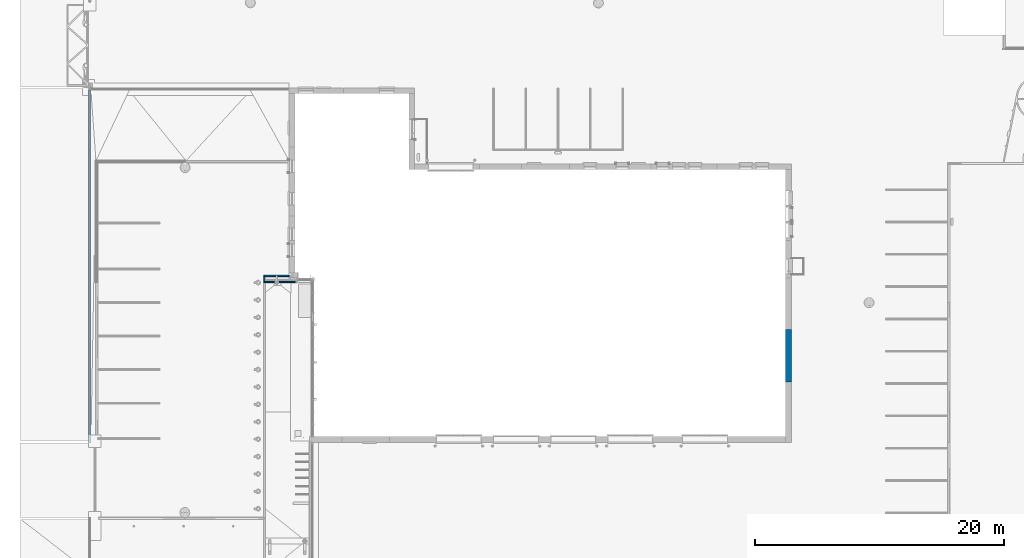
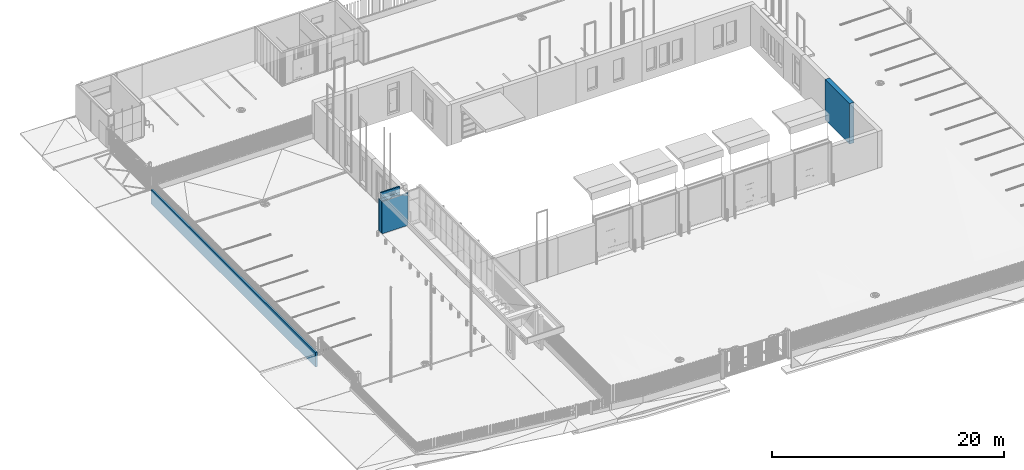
# One storey, part 17 of 77: 6 walls, 8 openings.
"""IFC2X3 building model written with IfcOpenShell, lengths in millimetres."""

from ifc_helpers import new_model, entity, si_unit, converted_unit, derived_unit, direction, frame, frame_2d, origin, origin_2d_with_axis, place, context, subcontext, project, spatial, polyline, rectangle, outline, extrude, faceted_brep, material, layer, layer_set, layer_usage, type_object, element, save


model = new_model("IFC2X3")

# Units and contexts
model_context = context("Model", 3, precision=0.01, world=origin(), true_north=direction((6.12303176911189e-17, 1.0)))
body_context = subcontext(model_context, "Body", "Model", "MODEL_VIEW")
ifc_project = project(units=[si_unit("LENGTHUNIT", "METRE", prefix="MILLI"), si_unit("AREAUNIT", "SQUARE_METRE"), si_unit("VOLUMEUNIT", "CUBIC_METRE"), converted_unit("PLANEANGLEUNIT", "DEGREE", entity("IfcRatioMeasure", 0.0174532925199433), si_unit("PLANEANGLEUNIT", "RADIAN"), dimensions=[0, 0, 0, 0, 0, 0, 0]), si_unit("MASSUNIT", "GRAM", prefix="KILO"), derived_unit("MASSDENSITYUNIT", [(si_unit("MASSUNIT", "GRAM", prefix="KILO"), 1), (si_unit("LENGTHUNIT", "METRE"), -3)]), si_unit("TIMEUNIT", "SECOND"), si_unit("FREQUENCYUNIT", "HERTZ"), si_unit("THERMODYNAMICTEMPERATUREUNIT", "DEGREE_CELSIUS"), derived_unit("THERMALTRANSMITTANCEUNIT", [(si_unit("MASSUNIT", "GRAM", prefix="KILO"), 1), (si_unit("THERMODYNAMICTEMPERATUREUNIT", "KELVIN"), -1), (si_unit("TIMEUNIT", "SECOND"), -3)]), derived_unit("VOLUMETRICFLOWRATEUNIT", [(si_unit("LENGTHUNIT", "METRE"), 3), (si_unit("TIMEUNIT", "SECOND"), -1)]), si_unit("ELECTRICCURRENTUNIT", "AMPERE"), si_unit("ELECTRICVOLTAGEUNIT", "VOLT"), si_unit("POWERUNIT", "WATT"), si_unit("FORCEUNIT", "NEWTON", prefix="KILO"), si_unit("ILLUMINANCEUNIT", "LUX"), si_unit("LUMINOUSFLUXUNIT", "LUMEN"), si_unit("LUMINOUSINTENSITYUNIT", "CANDELA"), derived_unit("USERDEFINED", [(si_unit("MASSUNIT", "GRAM", prefix="KILO"), -1), (si_unit("LENGTHUNIT", "METRE"), -2), (si_unit("TIMEUNIT", "SECOND"), 3), (si_unit("LUMINOUSFLUXUNIT", "LUMEN"), 1)]), derived_unit("LINEARVELOCITYUNIT", [(si_unit("LENGTHUNIT", "METRE"), 1), (si_unit("TIMEUNIT", "SECOND"), -1)]), si_unit("PRESSUREUNIT", "PASCAL"), derived_unit("USERDEFINED", [(si_unit("LENGTHUNIT", "METRE"), -2), (si_unit("MASSUNIT", "GRAM", prefix="KILO"), 1), (si_unit("TIMEUNIT", "SECOND"), -2)])], contexts=[model_context])

# Site, building, storey
site_placement = place(None, origin())
site = spatial("IfcSite", under=ifc_project, at=site_placement, Name="Default", CompositionType="ELEMENT")
building_placement = place(site_placement, origin())
building = spatial("IfcBuilding", under=site, at=building_placement, CompositionType="ELEMENT")
storey_placement = place(building_placement, origin())
storey = spatial("IfcBuildingStorey", under=building, at=storey_placement, Name="1. KORRUS", CompositionType="ELEMENT", Elevation=0.0)

# Wall, openings
ifc_material_1 = material(Name="Must-al-komposiitplaat")
ifc_layer_1 = layer(ifc_material_1, 5.0)
ifc_material_2 = material(Name="Metal Stud Layer")
ifc_layer_2 = layer(ifc_material_2, 95.0)
ifc_layer_set_1 = layer_set([ifc_layer_1, ifc_layer_2], Name="Basic Wall:Alumiinium-komposiitplaat roovidel")
ifc_layer_usage_1 = layer_usage(ifc_layer_set_1, "AXIS2", "POSITIVE", -50.0)
wall_type_1 = type_object("IfcWallType", Name="Basic Wall:Alumiinium-komposiitplaat roovidel", PredefinedType="STANDARD", material=ifc_layer_set_1)
wall_1_placement = place(storey_placement, frame((-450.0, 12950.0, 0.0), z_axis=(0.0, 0.0, 1.0), x_axis=(-1.0, 0.0, 0.0)))
wall_1 = element("IfcWallStandardCase", 1, at=wall_1_placement, inside=storey, type_object=wall_type_1, material=ifc_layer_usage_1, Name="Basic Wall:Alumiinium-komposiitplaat roovidel", ObjectType="Basic Wall:Alumiinium-komposiitplaat roovidel", context=body_context, shape_type="SweptSolid", body=[
    extrude(rectangle(XDim=2050.074537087, YDim=99.9999999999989, at=frame_2d((1025.0372685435, 1.77635683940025e-14), x_axis=(-1.0, 0.0))), origin(), (0.0, 0.0, 1.0), 3400.0),
])
opening_1_placement = place(wall_1_placement, origin())
element("IfcOpeningElement", 2, at=opening_1_placement, cuts=wall_1, Name="Basic Wall:Alumiinium-komposiitplaat roovidel", ObjectType="Recess", context=body_context, shape_type="SweptSolid", body=[
    extrude(rectangle(XDim=3400.0, YDim=4.99999999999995, at=origin_2d_with_axis()), frame((1897.574537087, -50.0, 1700.0), z_axis=(0.0, 1.0, 0.0), x_axis=(0.0, 0.0, -1.0)), (0.0, 0.0, 1.0), 5.00000000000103),
])
opening_2_placement = place(wall_1_placement, origin())
element("IfcOpeningElement", 3, at=opening_2_placement, cuts=wall_1, Name="Basic Wall:Alumiinium-komposiitplaat roovidel", ObjectType="Recess", context=body_context, shape_type="SweptSolid", body=[
    extrude(rectangle(XDim=3400.0, YDim=4.99999999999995, at=origin_2d_with_axis()), frame((947.574537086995, -50.0, 1700.0), z_axis=(0.0, 1.0, 0.0), x_axis=(0.0, 0.0, -1.0)), (0.0, 0.0, 1.0), 5.00000000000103),
])

ifc_layer_usage_2 = layer_usage(ifc_layer_set_1, "AXIS2", "NEGATIVE", 50.0)
wall_2_placement = place(storey_placement, frame((90.0, 12450.0003485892, 0.0), z_axis=(0.0, 0.0, 1.0), x_axis=(-1.0, 0.0, 0.0)))
wall_2 = element("IfcWallStandardCase", 4, at=wall_2_placement, inside=storey, type_object=wall_type_1, material=ifc_layer_usage_2, Name="Basic Wall:Alumiinium-komposiitplaat roovidel", ObjectType="Basic Wall:Alumiinium-komposiitplaat roovidel", context=body_context, shape_type="SweptSolid", body=[
    extrude(rectangle(XDim=2590.07453708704, YDim=99.9999999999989, at=frame_2d((1295.03726854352, -2.27373675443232e-13), x_axis=(-1.0, 0.0))), origin(), (0.0, 0.0, 1.0), 3400.0),
])
opening_3_placement = place(wall_2_placement, origin())
element("IfcOpeningElement", 5, at=opening_3_placement, cuts=wall_2, Name="Basic Wall:Alumiinium-komposiitplaat roovidel", ObjectType="Recess", context=body_context, shape_type="SweptSolid", body=[
    extrude(rectangle(XDim=3400.0, YDim=4.99999999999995, at=origin_2d_with_axis()), frame((1242.5, 45.0, 1700.0), z_axis=(0.0, 1.0, 0.0), x_axis=(0.0, 0.0, 1.0)), (0.0, 0.0, 1.0), 5.00000000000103),
])
opening_4_placement = place(wall_2_placement, origin())
element("IfcOpeningElement", 6, at=opening_4_placement, cuts=wall_2, Name="Basic Wall:Alumiinium-komposiitplaat roovidel", ObjectType="Recess", context=body_context, shape_type="SweptSolid", body=[
    extrude(rectangle(XDim=3400.0, YDim=4.99999999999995, at=origin_2d_with_axis()), frame((2502.47901274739, 45.0, 1700.0), z_axis=(0.0, 1.0, 0.0), x_axis=(0.0, 0.0, 1.0)), (0.0, 0.0, 1.0), 5.00000000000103),
])
opening_5_placement = place(wall_2_placement, origin())
element("IfcOpeningElement", 7, at=opening_5_placement, cuts=wall_2, Name="Basic Wall:Alumiinium-komposiitplaat roovidel", ObjectType="Recess", context=body_context, shape_type="SweptSolid", body=[
    extrude(rectangle(XDim=3400.0, YDim=5.0, at=frame_2d((0.0, 8.43769498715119e-15), x_axis=(1.0, 0.0))), frame((7.50000000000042, 45.0, 1700.0), z_axis=(0.0, 1.0, 0.0), x_axis=(0.0, 0.0, 1.0)), (0.0, 0.0, 1.0), 5.00000000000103),
])

# Wall
ifc_layer_usage_3 = layer_usage(ifc_layer_set_1, "AXIS2", "NEGATIVE", 50.0)
wall_3_placement = place(storey_placement, frame((-2450.07453708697, 12500.0003485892, 0.0), z_axis=(0.0, 0.0, 1.0), x_axis=(0.0, 1.0, 0.0)))
element("IfcWallStandardCase", 8, at=wall_3_placement, inside=storey, type_object=wall_type_1, material=ifc_layer_usage_3, Name="Basic Wall:Alumiinium-komposiitplaat roovidel", ObjectType="Basic Wall:Alumiinium-komposiitplaat roovidel", context=body_context, shape_type="SweptSolid", body=[
    extrude(rectangle(XDim=399.999651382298, YDim=100.0, at=frame_2d((199.999825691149, 1.3855583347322e-13), x_axis=(-1.0, 0.0))), origin(), (0.0, 0.0, 1.0), 3400.0),
])

# Wall, opening
ifc_layer_3 = layer(ifc_material_1, 5.0)
ifc_material_3 = material(Name="Õhkvahe- hor roovid")
ifc_layer_4 = layer(ifc_material_3, 20.0)
ifc_material_4 = material(Name="Õhkvahe- vert roovid")
ifc_layer_5 = layer(ifc_material_4, 100.0)
ifc_material_5 = material(Name="Vineer")
ifc_layer_6 = layer(ifc_material_5, 15.0)
ifc_layer_set_2 = layer_set([ifc_layer_3, ifc_layer_4, ifc_layer_5, ifc_layer_6], Name="Basic Wall:varikatuse serv")
ifc_layer_usage_4 = layer_usage(ifc_layer_set_2, "AXIS2", "POSITIVE", -70.0)
wall_type_2 = type_object("IfcWallType", Name="Basic Wall:varikatuse serv", PredefinedType="STANDARD", material=ifc_layer_set_2)
wall_4_placement = place(storey_placement, frame((-350.0, 12930.0006972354, 3400.0), z_axis=(0.0, 0.0, 1.0), x_axis=(-1.0, 0.0, 0.0)))
wall_4 = element("IfcWallStandardCase", 9, at=wall_4_placement, inside=storey, type_object=wall_type_2, material=ifc_layer_usage_4, Name="Basic Wall:varikatuse serv", ObjectType="Basic Wall:varikatuse serv", context=body_context, shape_type="SweptSolid", body=[
    extrude(outline(polyline([(100.0, 70.0), (100.0, -70.0), (1995.0, -70.0), (1995.0, -65.0), (2000.0, -65.0), (2000.0, -70.0), (2010.0, -70.0), (2010.0, 70.0), (100.0, 70.0)])), origin(), (0.0, 0.0, 1.0), 600.0),
])
opening_6_placement = place(wall_4_placement, origin())
element("IfcOpeningElement", 10, at=opening_6_placement, cuts=wall_4, Name="Basic Wall:varikatuse serv", ObjectType="Recess", context=body_context, shape_type="SweptSolid", body=[
    extrude(rectangle(XDim=600.0, YDim=4.99999999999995, at=origin_2d_with_axis()), frame((1997.50000000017, -70.0, 300.0), z_axis=(0.0, 1.0, 0.0), x_axis=(0.0, 0.0, -1.0)), (0.0, 0.0, 1.0), 5.00000000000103),
])

# Wall, openings
ifc_material_6 = material(Name="RECKLI 1 173 THUR by Polantis 2016-toon3")
ifc_layer_7 = layer(ifc_material_6, 100.0)
ifc_material_7 = material(Name="Soojusisolatsioon EPS")
ifc_layer_8 = layer(ifc_material_7, 200.0)
ifc_material_8 = material(Name="r/b")
ifc_layer_9 = layer(ifc_material_8, 150.0)
ifc_layer_set_3 = layer_set([ifc_layer_7, ifc_layer_8, ifc_layer_9], Name="Basic Wall:VS-1_toon-b")
ifc_layer_usage_5 = layer_usage(ifc_layer_set_3, "AXIS2", "NEGATIVE", 225.0)
wall_type_3 = type_object("IfcWallType", Name="Basic Wall:VS-1_toon-b", PredefinedType="STANDARD", material=ifc_layer_set_3)
wall_5_placement = place(storey_placement, frame((39725.0, 8643.33, -400.0), z_axis=(0.0, 0.0, 1.0), x_axis=(0.0, -1.0, 0.0)))
wall_5 = element("IfcWallStandardCase", 11, at=wall_5_placement, inside=storey, type_object=wall_type_3, material=ifc_layer_usage_5, Name="Basic Wall:VS-1_toon-b", ObjectType="Basic Wall:VS-1_toon-b", context=body_context, shape_type="SweptSolid", body=[
    extrude(rectangle(XDim=4228.33000000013, YDim=450.000000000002, at=frame_2d((2114.16500000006, 3.45323769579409e-12), x_axis=(-1.0, 0.0))), origin(), (0.0, 0.0, 1.0), 4265.0),
])
opening_7_placement = place(wall_5_placement, origin())
element("IfcOpeningElement", 12, at=opening_7_placement, cuts=wall_5, Name="Basic Wall:VS-1_toon-b", ObjectType="Recess", context=body_context, shape_type="SweptSolid", body=[
    extrude(rectangle(XDim=4265.0, YDim=16.0000000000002, at=frame_2d((0.0, -2.70450328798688e-13), x_axis=(1.0, 0.0))), frame((4214.66, 205.0, 2132.5), z_axis=(0.0, 1.0, 0.0), x_axis=(0.0, 0.0, 1.0)), (0.0, 0.0, 1.0), 20.0000000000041),
    extrude(rectangle(XDim=4835.0, YDim=16.0000000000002, at=frame_2d((0.0, -2.70450328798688e-13), x_axis=(1.0, 0.0))), frame((4214.66, 205.0, 6682.5), z_axis=(0.0, 1.0, 0.0), x_axis=(0.0, 0.0, 1.0)), (0.0, 0.0, 1.0), 20.0000000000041),
])
opening_8_placement = place(wall_5_placement, origin())
element("IfcOpeningElement", 13, at=opening_8_placement, cuts=wall_5, Name="Basic Wall:VS-1_toon-b", ObjectType="Opening", context=body_context, shape_type="Brep", body=[
    faceted_brep([(-19386.67, -40155.0, 400.0), (-19386.67, -40155.0, 0.0), (-19406.67, -40175.0, 0.0), (-19406.67, -40175.0, 400.0), (-14646.67, -40155.0, 400.0), (-14646.67, -40175.0, 400.0), (-14646.67, -40175.0, 0.0), (-14646.67, -40155.0, 0.0)], [[[0, 1, 2, 3]], [[4, 5, 6, 7]], [[1, 0, 4, 7]], [[2, 1, 7, 6]], [[3, 2, 6, 5]], [[0, 3, 5, 4]]]),
    faceted_brep([(-19386.67, -40155.0, 400.0), (-19406.67, -40175.0, 400.0), (-19406.67, -40175.0, 0.0), (-19386.67, -40155.0, 0.0), (-19386.67, -35815.0, 400.0), (-19386.67, -35815.0, 0.0), (-19406.67, -35815.0, 0.0), (-19406.67, -35815.0, 400.0)], [[[0, 1, 2, 3]], [[4, 5, 6, 7]], [[1, 0, 4, 7]], [[2, 1, 7, 6]], [[3, 2, 6, 5]], [[0, 3, 5, 4]]]),
    faceted_brep([(-19386.67, -30095.0, 400.0), (-19406.6699999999, -30075.0, 400.0), (-19406.6699999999, -30075.0, 0.0), (-19386.67, -30095.0, 0.0), (-13286.7217807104, -30095.0, 400.0), (-13286.7217807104, -30095.0, 0.0), (-13306.7217807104, -30075.0, 0.0), (-13306.7217807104, -30075.0, 400.0)], [[[0, 1, 2, 3]], [[4, 5, 6, 7]], [[1, 0, 4, 7]], [[2, 1, 7, 6]], [[3, 2, 6, 5]], [[0, 3, 5, 4]]]),
    faceted_brep([(-13286.7217807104, -25375.0, 400.0), (-13306.7217807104, -25375.0, 400.0), (-13306.7217807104, -25375.0, 0.0), (-13286.7217807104, -25375.0, 0.0), (-13286.7217807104, -24845.0, 400.0), (-13286.7217807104, -24845.0, 0.0), (-13306.7217807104, -24845.0, 0.0), (-13306.7217807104, -24845.0, 400.0)], [[[0, 1, 2, 3]], [[4, 5, 6, 7]], [[1, 0, 4, 7]], [[2, 1, 7, 6]], [[3, 2, 6, 5]], [[0, 3, 5, 4]]]),
    faceted_brep([(-13286.7217807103, 205.0, 400.0), (-13306.7217807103, 225.0, 400.0), (-13306.7217807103, 225.0, 0.0), (-13286.7217807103, 205.0, 0.0), (-7146.66999999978, 205.0, 400.0), (-7146.66999999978, 205.0, 0.0), (-7146.66999999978, 225.0, 0.0), (-7146.66999999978, 225.0, 400.0)], [[[0, 1, 2, 3]], [[4, 5, 6, 7]], [[1, 0, 4, 7]], [[2, 1, 7, 6]], [[3, 2, 6, 5]], [[0, 3, 5, 4]]]),
    faceted_brep([(9073.33000000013, 205.0, 400.0), (9093.33000000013, 225.0, 400.0), (9093.33000000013, 225.0, 0.0), (9073.33000000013, 205.0, 0.0), (9073.33000000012, -4925.0, 400.0), (9073.33000000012, -4925.0, 0.0), (9093.33000000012, -4925.0, 0.0), (9093.33000000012, -4925.0, 400.0)], [[[0, 1, 2, 3]], [[4, 5, 6, 7]], [[1, 0, 4, 7]], [[2, 1, 7, 6]], [[3, 2, 6, 5]], [[0, 3, 5, 4]]]),
    faceted_brep([(9073.33000000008, -28325.0, 400.0), (9093.33000000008, -28325.0, 400.0), (9093.33000000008, -28325.0, 0.0), (9073.33000000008, -28325.0, 0.0), (9073.33000000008, -32110.0, 400.0), (9073.33000000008, -32110.0, 0.0), (9093.33000000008, -32110.0, 0.0), (9093.33000000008, -32110.0, 400.0)], [[[0, 1, 2, 3]], [[4, 5, 6, 7]], [[1, 0, 4, 7]], [[2, 1, 7, 6]], [[3, 2, 6, 5]], [[0, 3, 5, 4]]]),
    faceted_brep([(-4116.66999999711, 205.0, 400.0), (-4116.66999999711, 225.0, 400.0), (-4116.66999999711, 225.0, 0.0), (-4116.66999999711, 205.0, 0.0), (0.0, 205.0, 400.0), (0.0, 205.0, 0.0), (0.0, 225.0, 0.0), (0.0, 225.0, 400.0)], [[[0, 1, 2, 3]], [[4, 5, 6, 7]], [[1, 0, 4, 7]], [[2, 1, 7, 6]], [[3, 2, 6, 5]], [[0, 3, 5, 4]]]),
    faceted_brep([(9073.33000000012, -8525.0, 400.0), (9093.33000000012, -8525.0, 400.0), (9093.33000000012, -8525.0, 0.0), (9073.33000000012, -8525.0, 0.0), (9073.33000000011, -10925.0, 400.0), (9073.33000000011, -10925.0, 0.0), (9093.33000000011, -10925.0, 0.0), (9093.33000000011, -10925.0, 400.0)], [[[0, 1, 2, 3]], [[4, 5, 6, 7]], [[1, 0, 4, 7]], [[2, 1, 7, 6]], [[3, 2, 6, 5]], [[0, 3, 5, 4]]]),
    faceted_brep([(9073.33000000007, -35934.969176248, 400.0), (9093.33000000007, -35934.969176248, 400.0), (9093.33000000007, -35934.969176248, 0.0), (9073.33000000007, -35934.969176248, 0.0), (9073.33000000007, -38419.969176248, 400.0), (9073.33000000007, -38419.969176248, 0.0), (9093.33000000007, -38419.969176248, 0.0), (9093.33000000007, -38419.969176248, 400.0)], [[[0, 1, 2, 3]], [[4, 5, 6, 7]], [[1, 0, 4, 7]], [[2, 1, 7, 6]], [[3, 2, 6, 5]], [[0, 3, 5, 4]]]),
    faceted_brep([(9073.33000000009, -23725.0, 400.0), (9093.33000000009, -23725.0, 400.0), (9093.33000000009, -23725.0, 0.0), (9073.33000000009, -23725.0, 0.0), (9073.33000000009, -24725.0, 400.0), (9073.33000000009, -24725.0, 0.0), (9093.33000000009, -24725.0, 0.0), (9093.33000000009, -24725.0, 400.0)], [[[0, 1, 2, 3]], [[4, 5, 6, 7]], [[1, 0, 4, 7]], [[2, 1, 7, 6]], [[3, 2, 6, 5]], [[0, 3, 5, 4]]]),
    faceted_brep([(9073.3300000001, -19124.9683370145, 400.0), (9093.3300000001, -19124.9683370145, 400.0), (9093.3300000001, -19124.9683370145, 0.0), (9073.3300000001, -19124.9683370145, 0.0), (9073.3300000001, -20125.0, 400.0), (9073.3300000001, -20125.0, 0.0), (9093.3300000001, -20125.0, 0.0), (9093.3300000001, -20125.0, 400.0)], [[[0, 1, 2, 3]], [[4, 5, 6, 7]], [[1, 0, 4, 7]], [[2, 1, 7, 6]], [[3, 2, 6, 5]], [[0, 3, 5, 4]]]),
    faceted_brep([(9073.33000000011, -14524.9683370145, 400.0), (9093.33000000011, -14524.9683370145, 400.0), (9093.33000000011, -14524.9683370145, 0.0), (9073.33000000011, -14524.9683370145, 0.0), (9073.3300000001, -15525.0, 400.0), (9073.3300000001, -15525.0, 0.0), (9093.3300000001, -15525.0, 0.0), (9093.3300000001, -15525.0, 400.0)], [[[0, 1, 2, 3]], [[4, 5, 6, 7]], [[1, 0, 4, 7]], [[2, 1, 7, 6]], [[3, 2, 6, 5]], [[0, 3, 5, 4]]]),
    faceted_brep([(4228.33000000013, 205.0, 400.0), (4228.33000000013, 225.0, 400.0), (4228.33000000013, 225.0, 0.0), (4228.33000000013, 205.0, 0.0), (9073.33000000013, 205.0, 400.0), (9073.33000000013, 205.0, 0.0), (9093.33000000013, 225.0, 0.0), (9093.33000000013, 225.0, 400.0)], [[[0, 1, 2, 3]], [[4, 5, 6, 7]], [[1, 0, 4, 7]], [[2, 1, 7, 6]], [[3, 2, 6, 5]], [[0, 3, 5, 4]]]),
    faceted_brep([(0.0, 205.0, 400.0), (0.0, 225.0, 400.0), (0.0, 225.0, 0.0), (0.0, 205.0, 0.0), (4228.33000000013, 205.0, 400.0), (4228.33000000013, 205.0, 0.0), (4228.33000000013, 225.0, 0.0), (4228.33000000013, 225.0, 400.0)], [[[0, 1, 2, 3]], [[4, 5, 6, 7]], [[1, 0, 4, 7]], [[2, 1, 7, 6]], [[3, 2, 6, 5]], [[0, 3, 5, 4]]]),
    faceted_brep([(-7146.66999999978, 205.0, 400.0), (-7146.66999999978, 225.0, 400.0), (-7146.66999999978, 225.0, 0.0), (-7146.66999999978, 205.0, 0.0), (-4116.66999999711, 205.0, 400.0), (-4116.66999999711, 205.0, 0.0), (-4116.66999999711, 225.0, 0.0), (-4116.66999999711, 225.0, 400.0)], [[[0, 1, 2, 3]], [[4, 5, 6, 7]], [[1, 0, 4, 7]], [[2, 1, 7, 6]], [[3, 2, 6, 5]], [[0, 3, 5, 4]]]),
    faceted_brep([(-13286.7217807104, -5754.89642978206, 400.0), (-13306.7217807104, -5754.89642978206, 400.0), (-13306.7217807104, -5754.89642978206, 0.0), (-13286.7217807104, -5754.89642978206, 0.0), (-13286.7217807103, 205.0, 400.0), (-13286.7217807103, 205.0, 0.0), (-13306.7217807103, 225.0, 0.0), (-13306.7217807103, 225.0, 400.0)], [[[0, 1, 2, 3]], [[4, 5, 6, 7]], [[1, 0, 4, 7]], [[2, 1, 7, 6]], [[3, 2, 6, 5]], [[0, 3, 5, 4]]]),
    faceted_brep([(-13286.7217807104, -11061.7838512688, 400.0), (-13306.7217807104, -11061.7838512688, 400.0), (-13306.7217807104, -11061.7838512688, 0.0), (-13286.7217807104, -11061.7838512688, 0.0), (-13286.7217807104, -5754.89642978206, 400.0), (-13286.7217807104, -5754.89642978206, 0.0), (-13306.7217807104, -5754.89642978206, 0.0), (-13306.7217807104, -5754.89642978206, 400.0)], [[[0, 1, 2, 3]], [[4, 5, 6, 7]], [[1, 0, 4, 7]], [[2, 1, 7, 6]], [[3, 2, 6, 5]], [[0, 3, 5, 4]]]),
    faceted_brep([(9073.33000000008, -32110.0, 400.0), (9093.33000000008, -32110.0, 400.0), (9093.33000000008, -32110.0, 0.0), (9073.33000000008, -32110.0, 0.0), (9073.33000000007, -35934.969176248, 400.0), (9073.33000000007, -35934.969176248, 0.0), (9093.33000000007, -35934.969176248, 0.0), (9093.33000000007, -35934.969176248, 400.0)], [[[0, 1, 2, 3]], [[4, 5, 6, 7]], [[1, 0, 4, 7]], [[2, 1, 7, 6]], [[3, 2, 6, 5]], [[0, 3, 5, 4]]]),
    faceted_brep([(-13286.7217807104, -17640.0, 400.0), (-13306.7217807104, -17640.0, 400.0), (-13306.7217807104, -17640.0, 0.0), (-13286.7217807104, -17640.0, 0.0), (-13286.7217807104, -11061.7838512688, 400.0), (-13286.7217807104, -11061.7838512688, 0.0), (-13306.7217807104, -11061.7838512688, 0.0), (-13306.7217807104, -11061.7838512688, 400.0)], [[[0, 1, 2, 3]], [[4, 5, 6, 7]], [[1, 0, 4, 7]], [[2, 1, 7, 6]], [[3, 2, 6, 5]], [[0, 3, 5, 4]]]),
    faceted_brep([(-13286.7217807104, -21471.6471089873, 400.0), (-13306.7217807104, -21471.6471089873, 400.0), (-13306.7217807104, -21471.6471089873, 0.0), (-13286.7217807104, -21471.6471089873, 0.0), (-13286.7217807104, -17640.0, 400.0), (-13286.7217807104, -17640.0, 0.0), (-13306.7217807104, -17640.0, 0.0), (-13306.7217807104, -17640.0, 400.0)], [[[0, 1, 2, 3]], [[4, 5, 6, 7]], [[1, 0, 4, 7]], [[2, 1, 7, 6]], [[3, 2, 6, 5]], [[0, 3, 5, 4]]]),
    faceted_brep([(-13286.7217807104, -24845.0, 400.0), (-13306.7217807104, -24845.0, 400.0), (-13306.7217807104, -24845.0, 0.0), (-13286.7217807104, -24845.0, 0.0), (-13286.7217807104, -21471.6471089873, 400.0), (-13286.7217807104, -21471.6471089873, 0.0), (-13306.7217807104, -21471.6471089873, 0.0), (-13306.7217807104, -21471.6471089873, 400.0)], [[[0, 1, 2, 3]], [[4, 5, 6, 7]], [[1, 0, 4, 7]], [[2, 1, 7, 6]], [[3, 2, 6, 5]], [[0, 3, 5, 4]]]),
    faceted_brep([(-19386.67, -35815.0, 400.0), (-19406.67, -35815.0, 400.0), (-19406.67, -35815.0, 0.0), (-19386.67, -35815.0, 0.0), (-19386.67, -30095.0, 400.0), (-19386.67, -30095.0, 0.0), (-19406.6699999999, -30075.0, 0.0), (-19406.6699999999, -30075.0, 400.0)], [[[0, 1, 2, 3]], [[4, 5, 6, 7]], [[1, 0, 4, 7]], [[2, 1, 7, 6]], [[3, 2, 6, 5]], [[0, 3, 5, 4]]]),
    faceted_brep([(-14646.67, -40155.0, 400.0), (-14646.67, -40155.0, 0.0), (-14646.67, -40175.0, 0.0), (-14646.67, -40175.0, 400.0), (-9096.67069723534, -40155.0, 400.0), (-9096.67069723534, -40175.0, 400.0), (-9096.67069723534, -40175.0, 0.0), (-9096.67069723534, -40155.0, 0.0)], [[[0, 1, 2, 3]], [[4, 5, 6, 7]], [[1, 0, 4, 7]], [[2, 1, 7, 6]], [[3, 2, 6, 5]], [[0, 3, 5, 4]]]),
    faceted_brep([(-9096.67069723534, -40155.0, 400.0), (-9096.67069723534, -40155.0, 0.0), (-9096.67069723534, -40175.0, 0.0), (-9096.67069723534, -40175.0, 400.0), (-4156.66999999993, -40155.0, 400.0), (-4156.66999999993, -40175.0, 400.0), (-4156.66999999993, -40175.0, 0.0), (-4156.66999999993, -40155.0, 0.0)], [[[0, 1, 2, 3]], [[4, 5, 6, 7]], [[1, 0, 4, 7]], [[2, 1, 7, 6]], [[3, 2, 6, 5]], [[0, 3, 5, 4]]]),
    faceted_brep([(-13286.7217807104, -30095.0, 400.0), (-13306.7217807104, -30075.0, 400.0), (-13306.7217807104, -30075.0, 0.0), (-13286.7217807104, -30095.0, 0.0), (-13286.7217807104, -28975.0, 400.0), (-13286.7217807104, -28975.0, 0.0), (-13306.7217807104, -28975.0, 0.0), (-13306.7217807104, -28975.0, 400.0)], [[[0, 1, 2, 3]], [[4, 5, 6, 7]], [[1, 0, 4, 7]], [[2, 1, 7, 6]], [[3, 2, 6, 5]], [[0, 3, 5, 4]]]),
])

# Wall
ifc_material_9 = material(Name="aia r/b sokkel")
ifc_layer_10 = layer(ifc_material_9, 200.0)
ifc_layer_set_4 = layer_set([ifc_layer_10], Name="Basic Wall:Aed-madal")
ifc_layer_usage_6 = layer_usage(ifc_layer_set_4, "AXIS2", "NEGATIVE", 100.0)
wall_type_4 = type_object("IfcWallType", Name="Basic Wall:Aed-madal", PredefinedType="STANDARD", material=ifc_layer_set_4)
wall_6_placement = place(storey_placement, frame((-16500.0, -497.986844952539, -1300.0), z_axis=(0.0, 0.0, 1.0), x_axis=(0.0, 1.0, 0.0)))
element("IfcWallStandardCase", 14, at=wall_6_placement, inside=storey, type_object=wall_type_4, material=ifc_layer_usage_6, Name="Basic Wall:Aed-madal", ObjectType="Basic Wall:Aed-madal", context=body_context, shape_type="SweptSolid", body=[
    extrude(rectangle(XDim=28352.9868449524, YDim=199.999999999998, at=frame_2d((14176.4934224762, -3.97903932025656e-13), x_axis=(-1.0, 0.0))), origin(), (0.0, 0.0, 1.0), 1550.0),
])

save(model, "model.ifc")
